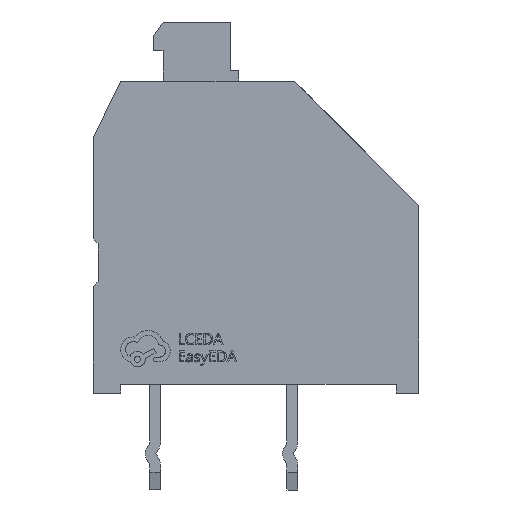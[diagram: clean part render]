
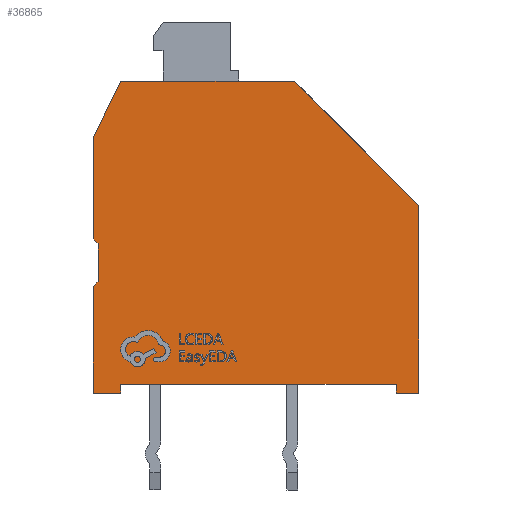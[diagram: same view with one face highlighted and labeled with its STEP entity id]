
A CAD part, left-side view. The second image highlights one B-rep face of the part: STEP entity #36865.
In plain terms, the highlighted planar face has unit normal (-1, 0, 0).
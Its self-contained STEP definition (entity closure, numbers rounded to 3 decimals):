
#409 = DIRECTION ( 'NONE',  ( 0., 1., 0. ) ) ;
#976 = CARTESIAN_POINT ( 'NONE',  ( -24.014, 5.533, -3.48 ) ) ;
#1435 = ORIENTED_EDGE ( 'NONE', *, *, #10125, .F. ) ;
#1784 = EDGE_CURVE ( 'NONE', #3419, #26028, #24447, .T. ) ;
#2985 = CARTESIAN_POINT ( 'NONE',  ( -24.014, 6.549, 0.15 ) ) ;
#2989 = VECTOR ( 'NONE', #23469, 1000. ) ;
#3419 = VERTEX_POINT ( 'NONE', #34922 ) ;
#3424 = LINE ( 'NONE', #24084, #32177 ) ;
#3465 = EDGE_CURVE ( 'NONE', #5919, #34067, #28315, .T. ) ;
#3838 = VERTEX_POINT ( 'NONE', #21580 ) ;
#4730 = CARTESIAN_POINT ( 'NONE',  ( -24.014, 5.533, -3.813 ) ) ;
#5013 = VERTEX_POINT ( 'NONE', #9250 ) ;
#5356 = VECTOR ( 'NONE', #33266, 1000. ) ;
#5841 = PLANE ( 'NONE',  #24169 ) ;
#5919 = VERTEX_POINT ( 'NONE', #19246 ) ;
#6325 = LINE ( 'NONE', #31773, #11865 ) ;
#7454 = CARTESIAN_POINT ( 'NONE',  ( -24.014, -0.926, 7.787 ) ) ;
#7466 = ORIENTED_EDGE ( 'NONE', *, *, #27496, .F. ) ;
#7784 = CARTESIAN_POINT ( 'NONE',  ( -24.014, 6.366, 1.737 ) ) ;
#7916 = VERTEX_POINT ( 'NONE', #23100 ) ;
#8641 = VERTEX_POINT ( 'NONE', #7454 ) ;
#8753 = LINE ( 'NONE', #11843, #2989 ) ;
#8878 = DIRECTION ( 'NONE',  ( 0., 0., 1. ) ) ;
#9139 = DIRECTION ( 'NONE',  ( 0., -0.707, 0.707 ) ) ;
#9250 = CARTESIAN_POINT ( 'NONE',  ( -24.014, 6.366, 0.332 ) ) ;
#9260 = EDGE_LOOP ( 'NONE', ( #16592, #29684, #7466, #29301, #1435, #37809, #30071, #35493, #27558, #27971, #19733, #10299, #24450, #36674 ) ) ;
#9401 = CARTESIAN_POINT ( 'NONE',  ( -24.014, -5.551, 3.162 ) ) ;
#10028 = LINE ( 'NONE', #35878, #21793 ) ;
#10125 = EDGE_CURVE ( 'NONE', #32884, #3419, #10028, .T. ) ;
#10235 = VERTEX_POINT ( 'NONE', #31045 ) ;
#10299 = ORIENTED_EDGE ( 'NONE', *, *, #12833, .F. ) ;
#10400 = VECTOR ( 'NONE', #19382, 1000. ) ;
#11843 = CARTESIAN_POINT ( 'NONE',  ( -24.014, 6.366, 0.332 ) ) ;
#11865 = VECTOR ( 'NONE', #29482, 1000. ) ;
#11922 = DIRECTION ( 'NONE',  ( 0., 0., -1. ) ) ;
#12833 = EDGE_CURVE ( 'NONE', #34067, #3838, #20733, .T. ) ;
#13600 = VECTOR ( 'NONE', #11922, 1000. ) ;
#15411 = LINE ( 'NONE', #30132, #30046 ) ;
#15767 = DIRECTION ( 'NONE',  ( 0., 0.707, 0.707 ) ) ;
#15863 = CARTESIAN_POINT ( 'NONE',  ( -24.014, 6.549, 5.677 ) ) ;
#16020 = EDGE_CURVE ( 'NONE', #5013, #32884, #8753, .T. ) ;
#16592 = ORIENTED_EDGE ( 'NONE', *, *, #34123, .F. ) ;
#16999 = LINE ( 'NONE', #2985, #26502 ) ;
#17628 = LINE ( 'NONE', #9401, #13600 ) ;
#17673 = CARTESIAN_POINT ( 'NONE',  ( -24.014, -4.711, -3.813 ) ) ;
#18346 = VECTOR ( 'NONE', #28066, 1000. ) ;
#18642 = VERTEX_POINT ( 'NONE', #976 ) ;
#18907 = EDGE_CURVE ( 'NONE', #7916, #5919, #17628, .T. ) ;
#19246 = CARTESIAN_POINT ( 'NONE',  ( -24.014, -5.551, -3.813 ) ) ;
#19312 = VERTEX_POINT ( 'NONE', #30304 ) ;
#19382 = DIRECTION ( 'NONE',  ( 0., -1., 0. ) ) ;
#19733 = ORIENTED_EDGE ( 'NONE', *, *, #23824, .F. ) ;
#20733 = LINE ( 'NONE', #17673, #35862 ) ;
#21411 = VECTOR ( 'NONE', #409, 1000. ) ;
#21580 = CARTESIAN_POINT ( 'NONE',  ( -24.014, -4.711, -3.48 ) ) ;
#21793 = VECTOR ( 'NONE', #15767, 1000. ) ;
#22231 = LINE ( 'NONE', #30858, #10400 ) ;
#22285 = CARTESIAN_POINT ( 'NONE',  ( -24.014, 6.549, 5.677 ) ) ;
#22602 = CARTESIAN_POINT ( 'NONE',  ( -24.014, 5.533, -3.813 ) ) ;
#23015 = EDGE_CURVE ( 'NONE', #18642, #31065, #6325, .T. ) ;
#23033 = LINE ( 'NONE', #34717, #21411 ) ;
#23100 = CARTESIAN_POINT ( 'NONE',  ( -24.014, -5.551, 3.162 ) ) ;
#23153 = EDGE_CURVE ( 'NONE', #19312, #5013, #16999, .T. ) ;
#23469 = DIRECTION ( 'NONE',  ( 0., 0., 1. ) ) ;
#23583 = CARTESIAN_POINT ( 'NONE',  ( -24.014, 5.533, 7.787 ) ) ;
#23824 = EDGE_CURVE ( 'NONE', #3838, #18642, #23033, .T. ) ;
#24084 = CARTESIAN_POINT ( 'NONE',  ( -24.014, 6.549, -3.813 ) ) ;
#24169 = AXIS2_PLACEMENT_3D ( 'NONE', #26305, #28813, #32248 ) ;
#24447 = LINE ( 'NONE', #36140, #5356 ) ;
#24450 = ORIENTED_EDGE ( 'NONE', *, *, #3465, .F. ) ;
#24686 = VERTEX_POINT ( 'NONE', #23583 ) ;
#25444 = DIRECTION ( 'NONE',  ( 0., 1., 0. ) ) ;
#25556 = VECTOR ( 'NONE', #25444, 1000. ) ;
#26028 = VERTEX_POINT ( 'NONE', #22285 ) ;
#26305 = CARTESIAN_POINT ( 'NONE',  ( -24.014, 1.918, 0. ) ) ;
#26502 = VECTOR ( 'NONE', #9139, 1000. ) ;
#27387 = EDGE_CURVE ( 'NONE', #10235, #19312, #3424, .T. ) ;
#27433 = DIRECTION ( 'NONE',  ( 0., -0.707, -0.707 ) ) ;
#27496 = EDGE_CURVE ( 'NONE', #26028, #24686, #30239, .T. ) ;
#27558 = ORIENTED_EDGE ( 'NONE', *, *, #32421, .F. ) ;
#27971 = ORIENTED_EDGE ( 'NONE', *, *, #23015, .F. ) ;
#28066 = DIRECTION ( 'NONE',  ( 0., 1., 0. ) ) ;
#28315 = LINE ( 'NONE', #33712, #25556 ) ;
#28647 = LINE ( 'NONE', #4730, #18346 ) ;
#28813 = DIRECTION ( 'NONE',  ( -1., 0., 0. ) ) ;
#29301 = ORIENTED_EDGE ( 'NONE', *, *, #1784, .F. ) ;
#29482 = DIRECTION ( 'NONE',  ( 0., 0., -1. ) ) ;
#29684 = ORIENTED_EDGE ( 'NONE', *, *, #32242, .F. ) ;
#29856 = DIRECTION ( 'NONE',  ( 0., 0., 1. ) ) ;
#30046 = VECTOR ( 'NONE', #27433, 1000. ) ;
#30071 = ORIENTED_EDGE ( 'NONE', *, *, #23153, .F. ) ;
#30132 = CARTESIAN_POINT ( 'NONE',  ( -24.014, -0.926, 7.787 ) ) ;
#30239 = LINE ( 'NONE', #15863, #37699 ) ;
#30304 = CARTESIAN_POINT ( 'NONE',  ( -24.014, 6.549, 0.15 ) ) ;
#30858 = CARTESIAN_POINT ( 'NONE',  ( -24.014, 5.533, 7.787 ) ) ;
#31045 = CARTESIAN_POINT ( 'NONE',  ( -24.014, 6.549, -3.813 ) ) ;
#31065 = VERTEX_POINT ( 'NONE', #22602 ) ;
#31468 = CARTESIAN_POINT ( 'NONE',  ( -24.014, -4.711, -3.813 ) ) ;
#31773 = CARTESIAN_POINT ( 'NONE',  ( -24.014, 5.533, -3.48 ) ) ;
#32177 = VECTOR ( 'NONE', #29856, 1000. ) ;
#32242 = EDGE_CURVE ( 'NONE', #24686, #8641, #22231, .T. ) ;
#32248 = DIRECTION ( 'NONE',  ( 0., 0., -1. ) ) ;
#32421 = EDGE_CURVE ( 'NONE', #31065, #10235, #28647, .T. ) ;
#32884 = VERTEX_POINT ( 'NONE', #7784 ) ;
#33266 = DIRECTION ( 'NONE',  ( 0., 0., 1. ) ) ;
#33712 = CARTESIAN_POINT ( 'NONE',  ( -24.014, -5.551, -3.813 ) ) ;
#34067 = VERTEX_POINT ( 'NONE', #31468 ) ;
#34123 = EDGE_CURVE ( 'NONE', #8641, #7916, #15411, .T. ) ;
#34561 = FACE_OUTER_BOUND ( 'NONE', #9260, .T. ) ;
#34717 = CARTESIAN_POINT ( 'NONE',  ( -24.014, -4.711, -3.48 ) ) ;
#34922 = CARTESIAN_POINT ( 'NONE',  ( -24.014, 6.549, 1.92 ) ) ;
#35493 = ORIENTED_EDGE ( 'NONE', *, *, #27387, .F. ) ;
#35862 = VECTOR ( 'NONE', #8878, 1000. ) ;
#35878 = CARTESIAN_POINT ( 'NONE',  ( -24.014, 6.366, 1.737 ) ) ;
#36140 = CARTESIAN_POINT ( 'NONE',  ( -24.014, 6.549, 1.92 ) ) ;
#36532 = DIRECTION ( 'NONE',  ( 0., -0.434, 0.901 ) ) ;
#36674 = ORIENTED_EDGE ( 'NONE', *, *, #18907, .F. ) ;
#36865 = ADVANCED_FACE ( 'NONE', ( #34561 ), #5841, .T. ) ;
#37699 = VECTOR ( 'NONE', #36532, 1000. ) ;
#37809 = ORIENTED_EDGE ( 'NONE', *, *, #16020, .F. ) ;
